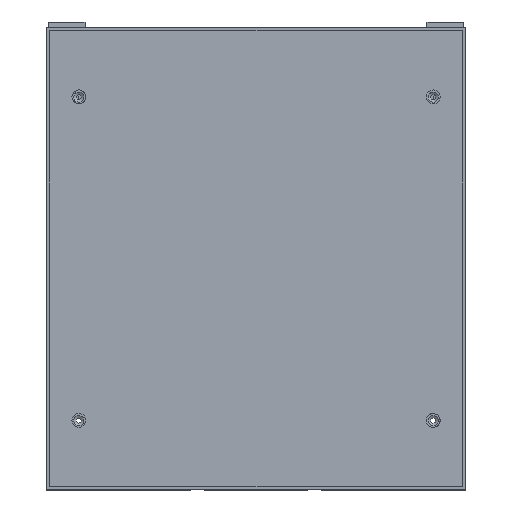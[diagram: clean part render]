
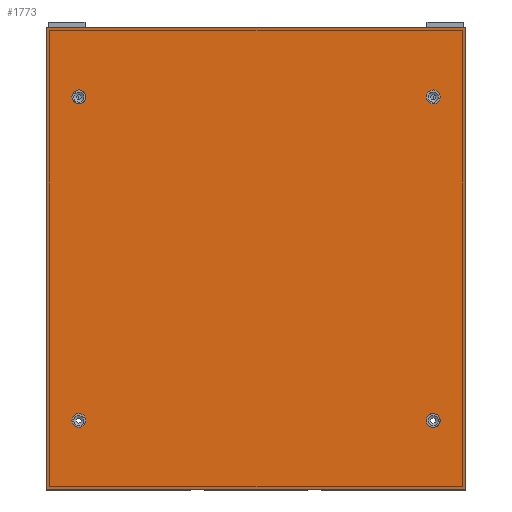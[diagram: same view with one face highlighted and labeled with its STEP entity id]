
A CAD part, top view. The second image highlights one B-rep face of the part: STEP entity #1773.
In plain terms, the highlighted planar face has unit normal (0, 0, 1).
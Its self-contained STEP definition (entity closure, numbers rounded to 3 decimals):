
#1773=ADVANCED_FACE('',(#5456,#5457,#5458,#5459,#5460),#2599,.F.);
#2599=PLANE('',#17735);
#3182=LINE('',#26339,#4396);
#3246=LINE('',#26494,#4460);
#3436=LINE('',#27136,#4650);
#3437=LINE('',#27137,#4651);
#4396=VECTOR('',#19883,1.);
#4460=VECTOR('',#20021,1.);
#4650=VECTOR('',#20711,1.);
#4651=VECTOR('',#20712,1.);
#5456=FACE_BOUND('',#6358,.T.);
#5457=FACE_BOUND('',#6359,.T.);
#5458=FACE_BOUND('',#6360,.T.);
#5459=FACE_BOUND('',#6361,.T.);
#5460=FACE_BOUND('',#6362,.T.);
#6358=EDGE_LOOP('',(#8759));
#6359=EDGE_LOOP('',(#8760));
#6360=EDGE_LOOP('',(#8761));
#6361=EDGE_LOOP('',(#8762));
#6362=EDGE_LOOP('',(#8763,#8764,#8765,#8766));
#8759=ORIENTED_EDGE('',*,*,#14804,.F.);
#8760=ORIENTED_EDGE('',*,*,#14805,.F.);
#8761=ORIENTED_EDGE('',*,*,#14806,.F.);
#8762=ORIENTED_EDGE('',*,*,#14807,.F.);
#8763=ORIENTED_EDGE('',*,*,#14491,.F.);
#8764=ORIENTED_EDGE('',*,*,#14808,.F.);
#8765=ORIENTED_EDGE('',*,*,#14409,.F.);
#8766=ORIENTED_EDGE('',*,*,#14809,.F.);
#12632=VERTEX_POINT('',#26338);
#12633=VERTEX_POINT('',#26340);
#12686=VERTEX_POINT('',#26493);
#12687=VERTEX_POINT('',#26495);
#12885=VERTEX_POINT('',#27129);
#12886=VERTEX_POINT('',#27131);
#12887=VERTEX_POINT('',#27133);
#12888=VERTEX_POINT('',#27135);
#14409=EDGE_CURVE('',#12632,#12633,#3182,.T.);
#14491=EDGE_CURVE('',#12686,#12687,#3246,.T.);
#14804=EDGE_CURVE('',#12885,#12885,#16557,.T.);
#14805=EDGE_CURVE('',#12886,#12886,#16558,.T.);
#14806=EDGE_CURVE('',#12887,#12887,#16559,.T.);
#14807=EDGE_CURVE('',#12888,#12888,#16560,.T.);
#14808=EDGE_CURVE('',#12633,#12686,#3436,.T.);
#14809=EDGE_CURVE('',#12687,#12632,#3437,.T.);
#16557=CIRCLE('',#17731,2.25);
#16558=CIRCLE('',#17732,2.25);
#16559=CIRCLE('',#17733,2.25);
#16560=CIRCLE('',#17734,2.25);
#17731=AXIS2_PLACEMENT_3D('',#27128,#20703,#20704);
#17732=AXIS2_PLACEMENT_3D('',#27130,#20705,#20706);
#17733=AXIS2_PLACEMENT_3D('',#27132,#20707,#20708);
#17734=AXIS2_PLACEMENT_3D('',#27134,#20709,#20710);
#17735=AXIS2_PLACEMENT_3D('',#27138,#20713,#20714);
#19883=DIRECTION('',(0.,1.,0.));
#20021=DIRECTION('',(0.,-1.,0.));
#20703=DIRECTION('',(0.,0.,1.));
#20704=DIRECTION('',(-1.,0.,0.));
#20705=DIRECTION('',(0.,0.,1.));
#20706=DIRECTION('',(1.,0.,0.));
#20707=DIRECTION('',(0.,0.,1.));
#20708=DIRECTION('',(-1.,0.,0.));
#20709=DIRECTION('',(0.,0.,1.));
#20710=DIRECTION('',(1.,0.,0.));
#20711=DIRECTION('',(1.,0.,0.));
#20712=DIRECTION('',(-1.,0.,0.));
#20713=DIRECTION('',(0.,0.,-1.));
#20714=DIRECTION('',(1.,0.,0.));
#26338=CARTESIAN_POINT('',(-68.,-78.,193.));
#26339=CARTESIAN_POINT('',(-68.,72.,193.));
#26340=CARTESIAN_POINT('',(-68.,72.,193.));
#26493=CARTESIAN_POINT('',(68.,72.,193.));
#26494=CARTESIAN_POINT('',(68.,72.,193.));
#26495=CARTESIAN_POINT('',(68.,-78.,193.));
#27128=CARTESIAN_POINT('',(-57.5,-55.5,193.));
#27129=CARTESIAN_POINT('',(-59.75,-55.5,193.));
#27130=CARTESIAN_POINT('',(57.5,-55.5,193.));
#27131=CARTESIAN_POINT('',(59.75,-55.5,193.));
#27132=CARTESIAN_POINT('',(57.5,49.5,193.));
#27133=CARTESIAN_POINT('',(55.25,49.5,193.));
#27134=CARTESIAN_POINT('',(-57.5,49.5,193.));
#27135=CARTESIAN_POINT('',(-55.25,49.5,193.));
#27136=CARTESIAN_POINT('',(68.,72.,193.));
#27137=CARTESIAN_POINT('',(68.,-78.,193.));
#27138=CARTESIAN_POINT('',(0.,-3.,193.));
